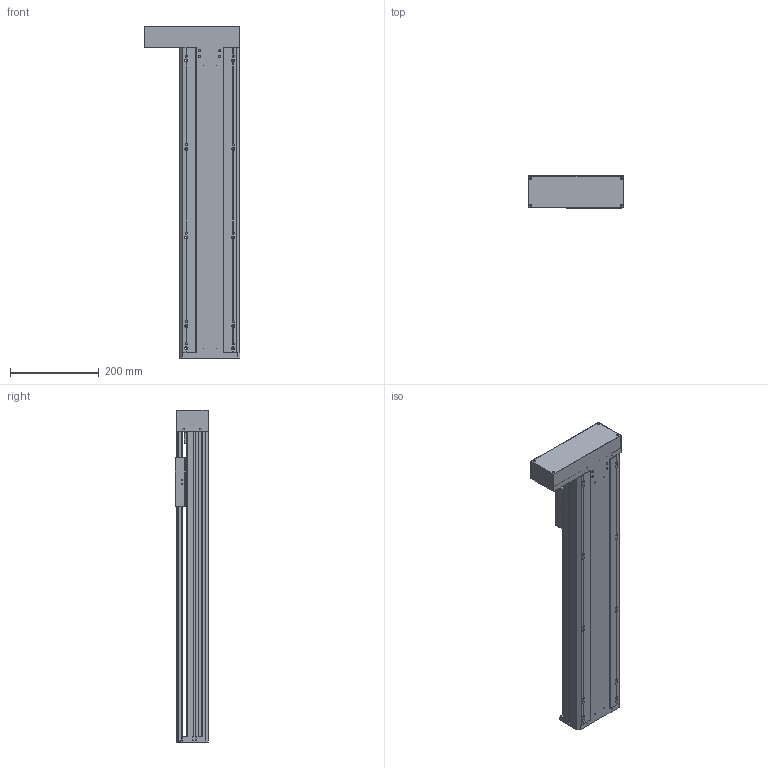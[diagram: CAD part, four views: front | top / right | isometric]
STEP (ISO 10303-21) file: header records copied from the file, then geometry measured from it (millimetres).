
FILE_DESCRIPTION(/* description */ (''),/* implementation_level */ '2;1');
FILE_NAME(/* name */ 'TKA136-FL-500_asm1.stp',/* time_stamp */ '2016-05-07T13:18:23+08:00',/* author */ (''),/* organization */ (''),/* preprocessor_version */ 'ST-DEVELOPER v15',/* originating_system */ 'SIEMENS PLM Software NX 8.5',/* authorisation */ '');
FILE_SCHEMA (('AUTOMOTIVE_DESIGN { 1 0 10303 214 3 1 1 1 }'));
Length unit declared in the file: millimetre
Products named in the file (3): 100-02; 100-01; TKA136-FL-500_asm1
Assembly tree (2 placements, depth 2):
  TKA136-FL-500_asm1
    100-01
    100-02
Bounding box: 216 x 75 x 750 mm (x, y, z)
Volume: 2396818.3 mm3; surface area: 950743.1 mm2
Topology: 2 solids, 12 shells, 886 faces, 2496 edges, 1629 vertices
Faces by surface type: plane 421, cylinder 414, cone 51
Full cylindrical faces by diameter (mm): 2.5 x14, 3 x2, 3.3 x13, 4 x4, 4.2 x6, 4.5 x24, 5 x18, 5.5 x26, 6.6 x14, 8 x20, 10 x9, 10.5 x10, 11 x4, 11.6 x1, 12 x9, 15 x3, 16 x5, 17 x1, 24 x5, 26 x1, 28 x1, 46 x1, 50 x1
Entity records: 29616 total; most frequent: CARTESIAN_POINT 7794, DIRECTION 4518, ORIENTED_EDGE 4234, EDGE_CURVE 2117, AXIS2_PLACEMENT_3D 1707, VERTEX_POINT 1512, EDGE_LOOP 1320, LINE 1104
